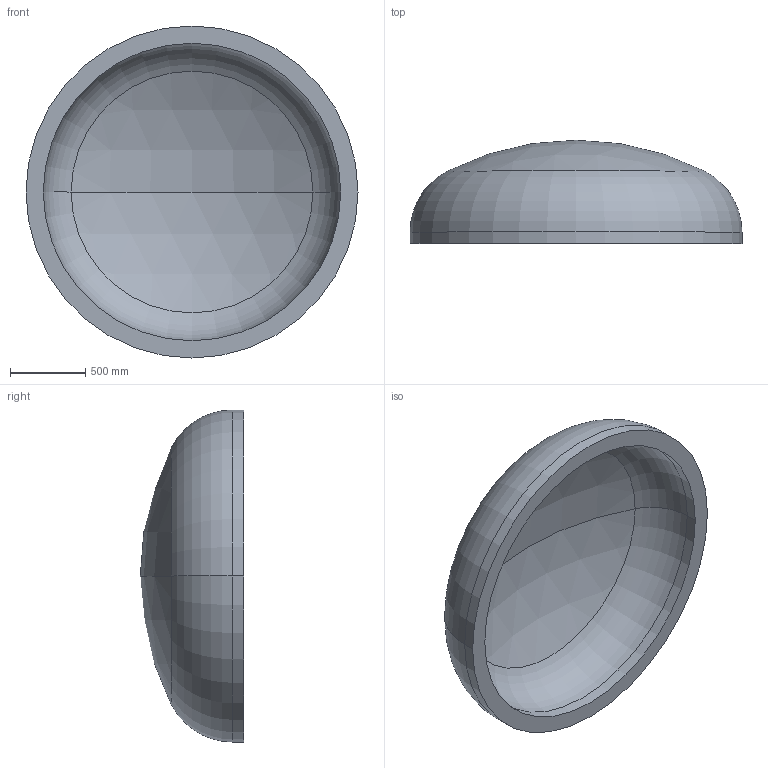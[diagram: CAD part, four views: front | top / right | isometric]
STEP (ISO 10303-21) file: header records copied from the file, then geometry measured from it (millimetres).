
FILE_DESCRIPTION (( 'STEP AP203' ), '1' );
FILE_NAME ('DIN 28013 Korbbogenform_-_Boden DIN 28013 - 2200 x 75 - I - s=114.step', '2016-07-01T14:58:24', ( '' ), ( '' ), 'SwSTEP 2.0', 'SolidWorks 2013', '' );
FILE_SCHEMA (( 'CONFIG_CONTROL_DESIGN' ));
Length unit declared in the file: millimetre
Products named in the file (1): DIN 28013 Korbbogenform_-_Boden DIN 28013 - 2200 x 75 - I - s=114
Bounding box: 2200 x 684.45 x 2200 mm (x, y, z)
Volume: 618016038.1 mm3; surface area: 11616685.7 mm2
Topology: 1 solids, 1 shells, 13 faces, 24 edges, 14 vertices
Faces by surface type: torus 4, cylinder 4, sphere 4, plane 1
Entity records: 407 total; most frequent: DIRECTION 72, CARTESIAN_POINT 52, ORIENTED_EDGE 48, AXIS2_PLACEMENT_3D 34, EDGE_CURVE 24, CIRCLE 20, EDGE_LOOP 14, VERTEX_POINT 14
